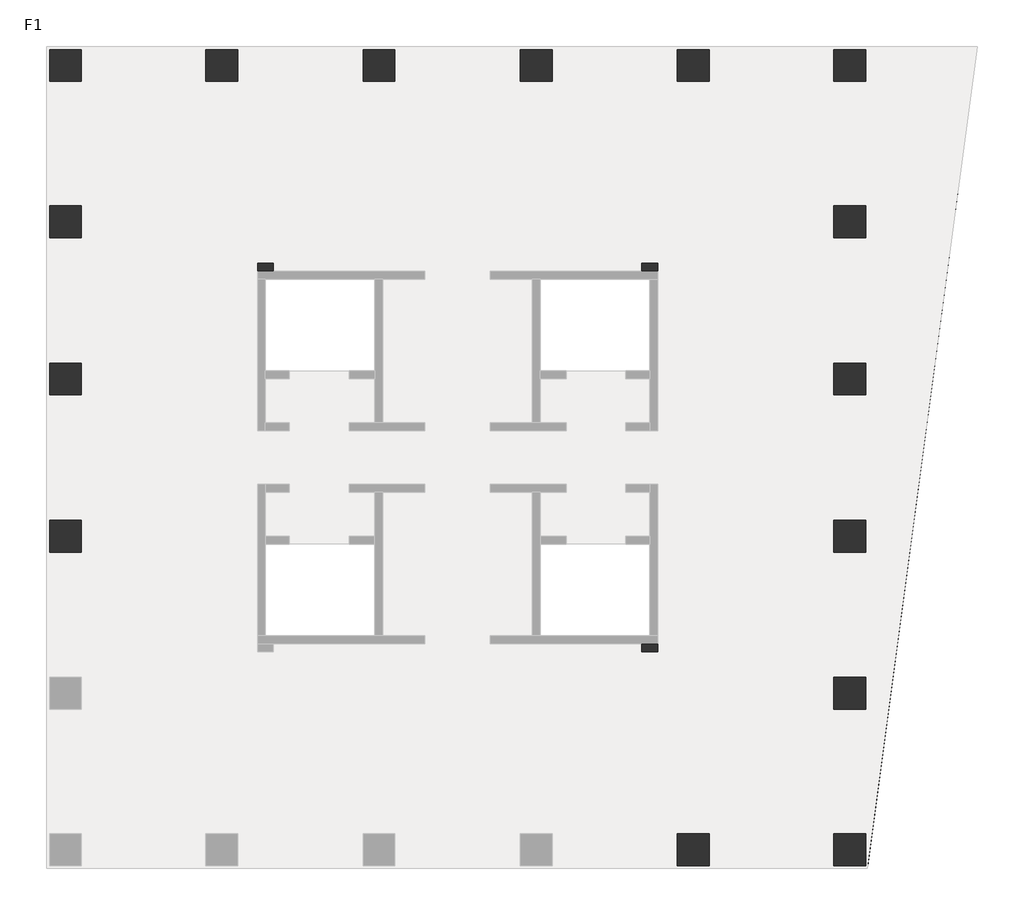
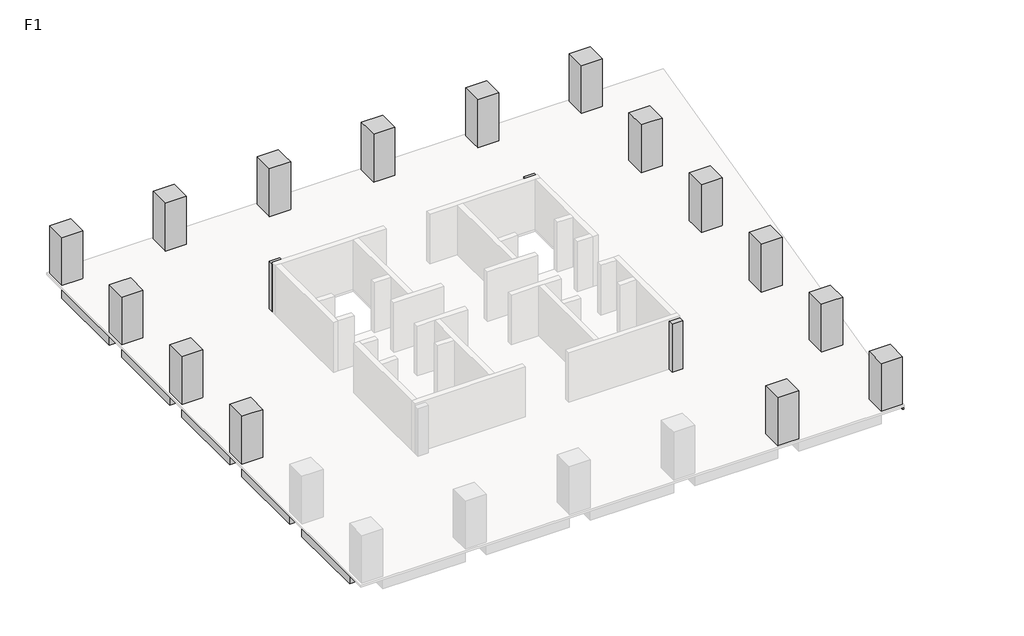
# One storey, part 2 of 2: 21 beams, 18 columns.
"""IFC4 building model written with IfcOpenShell, lengths in millimetres."""

from ifc_helpers import new_model, si_unit, frame, origin, place, context, project, spatial, polyline, outline, extrude, faceted_brep, element, save

model = new_model("IFC4")

# Units and contexts
model_context = context("Model", 3, world=origin())
ifc_project = project(units=[si_unit("LENGTHUNIT", "METRE", prefix="MILLI")], contexts=[model_context])

# Site, building, storey
site = spatial("IfcSite", under=ifc_project)
building = spatial("IfcBuilding", under=site)
storey = spatial("IfcBuildingStorey", under=building, Name="F1", Elevation=4000.0)

# Beams
placement = place(None, origin())
element("IfcBeam", 1, ObjectType="混凝土 - 矩形梁 : KL(5)-800x1000", at=placement, inside=storey, context=model_context, shape_type="SweptSolid", body=[
    extrude(outline(polyline([(25327.3257831, 27051.0498658), (25327.3257831, 26251.0498658), (19077.3257831, 26251.0498658), (19077.3257831, 27051.0498658), (25327.3257831, 27051.0498658)])), frame((0.0, 0.0, 3000.0), z_axis=(0.0, 0.0, 1.0), x_axis=(1.0, 0.0, 0.0)), (0.0, 0.0, 1.0), 840.0),
    extrude(outline(polyline([(-12472.6742169, 26251.0498658), (-12472.6742169, 27051.0498658), (-6222.6742169, 27051.0498658), (-6222.6742169, 26251.0498658), (-12472.6742169, 26251.0498658)])), frame((0.0, 0.0, 3000.0), z_axis=(0.0, 0.0, 1.0), x_axis=(1.0, 0.0, 0.0)), (0.0, 0.0, 1.0), 840.0),
    extrude(outline(polyline([(-4622.6742169, 26251.0498658), (-4622.6742169, 27051.0498658), (1677.3257831, 27051.0498658), (1677.3257831, 26251.0498658), (-4622.6742169, 26251.0498658)])), frame((0.0, 0.0, 3000.0), z_axis=(0.0, 0.0, 1.0), x_axis=(1.0, 0.0, 0.0)), (0.0, 0.0, 1.0), 840.0),
    extrude(outline(polyline([(3277.3257831, 26251.0498658), (3277.3257831, 27051.0498658), (9577.3257831, 27051.0498658), (9577.3257831, 26251.0498658), (3277.3257831, 26251.0498658)])), frame((0.0, 0.0, 3000.0), z_axis=(0.0, 0.0, 1.0), x_axis=(1.0, 0.0, 0.0)), (0.0, 0.0, 1.0), 840.0),
    extrude(outline(polyline([(11177.3257831, 26251.0498658), (11177.3257831, 27051.0498658), (17477.3257831, 27051.0498658), (17477.3257831, 26251.0498658), (11177.3257831, 26251.0498658)])), frame((0.0, 0.0, 3000.0), z_axis=(0.0, 0.0, 1.0), x_axis=(1.0, 0.0, 0.0)), (0.0, 0.0, 1.0), 840.0),
])
element("IfcBeam", 2, ObjectType="混凝土 - 矩形梁 : KL(5)-800x1000", at=placement, inside=storey, context=model_context, shape_type="Brep", body=[
    faceted_brep([(26927.3257831, 26251.0498658, 3000.0), (32422.0087099, 26251.0498658, 3000.0), (32422.0087099, 26251.0498658, 3840.0), (32018.4257091, 26251.0498658, 3840.0), (26927.3257831, 26251.0498658, 3840.0), (26927.3257831, 27051.0498658, 3000.0), (32422.0087099, 27051.0498658, 3000.0), (26927.3257831, 27051.0498658, 3840.0), (32422.0087099, 27051.0498658, 3840.0)], [[[0, 1, 2, 3, 4]], [[0, 5, 6, 1]], [[6, 5, 7, 8]], [[5, 0, 4, 7]], [[1, 6, 8, 2]], [[4, 3, 2, 8, 7]]]),
])
element("IfcBeam", 3, ObjectType="混凝土 - 矩形梁 : KL(5)-800x1000", at=placement, inside=storey, context=model_context, shape_type="Brep", body=[
    faceted_brep([(26127.3257831, -6098.9501342, 3000.0), (26127.3257831, -12348.9501342, 3000.0), (26127.3257831, -12348.9501342, 3840.0), (26127.3257831, -6098.9501342, 3840.0), (26927.3257831, -12348.9501342, 3000.0), (26927.3257831, -6098.9501342, 3000.0), (26927.3257831, -6098.9501342, 3840.0), (26927.3257831, -11700.7859463, 3840.0), (26927.3257831, -12348.9501342, 3840.0)], [[[0, 1, 2, 3]], [[4, 1, 0, 5]], [[4, 5, 6, 7, 8]], [[1, 4, 8, 2]], [[5, 0, 3, 6]], [[3, 2, 8, 7, 6]]]),
    faceted_brep([(26927.3257831, 25451.0498658, 3000.0), (26127.3257831, 25451.0498658, 3000.0), (26127.3257831, 25451.0498658, 3840.0), (26927.3257831, 25451.0498658, 3840.0), (26127.3257831, 19201.0498658, 3000.0), (26927.3257831, 19201.0498658, 3000.0), (26927.3257831, 19201.0498658, 3840.0), (26127.3257831, 19201.0498658, 3840.0)], [[[0, 1, 2, 3]], [[4, 5, 6, 7]], [[1, 4, 7, 2]], [[1, 0, 5, 4]], [[5, 0, 3, 6]], [[3, 2, 7, 6]]]),
    faceted_brep([(26927.3257831, 17601.0498658, 3000.0), (26127.3257831, 17601.0498658, 3000.0), (26127.3257831, 17601.0498658, 3840.0), (26927.3257831, 17601.0498658, 3840.0), (26127.3257831, 11301.0498658, 3000.0), (26927.3257831, 11301.0498658, 3000.0), (26927.3257831, 11301.0498658, 3840.0), (26127.3257831, 11301.0498658, 3840.0)], [[[0, 1, 2, 3]], [[4, 5, 6, 7]], [[1, 4, 7, 2]], [[1, 0, 5, 4]], [[5, 0, 3, 6]], [[3, 2, 7, 6]]]),
    faceted_brep([(26927.3257831, 9701.0498658, 3000.0), (26127.3257831, 9701.0498658, 3000.0), (26127.3257831, 9701.0498658, 3840.0), (26927.3257831, 9701.0498658, 3840.0), (26127.3257831, 3401.0498658, 3000.0), (26927.3257831, 3401.0498658, 3000.0), (26927.3257831, 3401.0498658, 3840.0), (26127.3257831, 3401.0498658, 3840.0)], [[[0, 1, 2, 3]], [[4, 5, 6, 7]], [[1, 4, 7, 2]], [[1, 0, 5, 4]], [[5, 0, 3, 6]], [[3, 2, 7, 6]]]),
    faceted_brep([(26927.3257831, 1801.0498658, 3000.0), (26127.3257831, 1801.0498658, 3000.0), (26127.3257831, 1801.0498658, 3840.0), (26927.3257831, 1801.0498658, 3840.0), (26127.3257831, -4498.9501342, 3000.0), (26927.3257831, -4498.9501342, 3000.0), (26927.3257831, -4498.9501342, 3840.0), (26127.3257831, -4498.9501342, 3840.0)], [[[0, 1, 2, 3]], [[4, 5, 6, 7]], [[1, 4, 7, 2]], [[1, 0, 5, 4]], [[5, 0, 3, 6]], [[3, 2, 7, 6]]]),
])
element("IfcBeam", 4, ObjectType="混凝土 - 矩形梁 : KL(5)-800x1000", at=placement, inside=storey, context=model_context, shape_type="SweptSolid", body=[
    extrude(outline(polyline([(-14072.6742169, 25451.0498658), (-13272.6742169, 25451.0498658), (-13272.6742169, 19201.0498658), (-14072.6742169, 19201.0498658), (-14072.6742169, 25451.0498658)])), frame((0.0, 0.0, 3000.0), z_axis=(0.0, 0.0, 1.0), x_axis=(1.0, 0.0, 0.0)), (0.0, 0.0, 1.0), 840.0),
    extrude(outline(polyline([(-13272.6742169, -12348.9501342), (-14072.6742169, -12348.9501342), (-14072.6742169, -6098.9501342), (-13272.6742169, -6098.9501342), (-13272.6742169, -12348.9501342)])), frame((0.0, 0.0, 3000.0), z_axis=(0.0, 0.0, 1.0), x_axis=(1.0, 0.0, 0.0)), (0.0, 0.0, 1.0), 840.0),
    extrude(outline(polyline([(-14072.6742169, 17601.0498658), (-13272.6742169, 17601.0498658), (-13272.6742169, 11301.0498658), (-14072.6742169, 11301.0498658), (-14072.6742169, 17601.0498658)])), frame((0.0, 0.0, 3000.0), z_axis=(0.0, 0.0, 1.0), x_axis=(1.0, 0.0, 0.0)), (0.0, 0.0, 1.0), 840.0),
    extrude(outline(polyline([(-14072.6742169, 9701.0498658), (-13272.6742169, 9701.0498658), (-13272.6742169, 3401.0498658), (-14072.6742169, 3401.0498658), (-14072.6742169, 9701.0498658)])), frame((0.0, 0.0, 3000.0), z_axis=(0.0, 0.0, 1.0), x_axis=(1.0, 0.0, 0.0)), (0.0, 0.0, 1.0), 840.0),
    extrude(outline(polyline([(-14072.6742169, 1801.0498658), (-13272.6742169, 1801.0498658), (-13272.6742169, -4498.9501342), (-14072.6742169, -4498.9501342), (-14072.6742169, 1801.0498658)])), frame((0.0, 0.0, 3000.0), z_axis=(0.0, 0.0, 1.0), x_axis=(1.0, 0.0, 0.0)), (0.0, 0.0, 1.0), 840.0),
])
element("IfcBeam", 5, ObjectType="混凝土 - 矩形梁 : L1-800x500", at=placement, inside=storey, context=model_context, shape_type="SweptSolid", body=[
    extrude(outline(polyline([(-12472.6742169, 2201.0498658), (-12472.6742169, 3001.0498658), (-3622.6742169, 3001.0498658), (-3622.6742169, 2201.0498658), (-12472.6742169, 2201.0498658)])), frame((0.0, 0.0, 3500.0), z_axis=(0.0, 0.0, 1.0), x_axis=(1.0, 0.0, 0.0)), (0.0, 0.0, 1.0), 340.0),
])
element("IfcBeam", 6, ObjectType="混凝土 - 矩形梁 : L1-800x500", at=placement, inside=storey, context=model_context, shape_type="SweptSolid", body=[
    extrude(outline(polyline([(-12472.6742169, 10101.0498658), (-12472.6742169, 10901.0498658), (-3622.6742169, 10901.0498658), (-3622.6742169, 10101.0498658), (-12472.6742169, 10101.0498658)])), frame((0.0, 0.0, 3500.0), z_axis=(0.0, 0.0, 1.0), x_axis=(1.0, 0.0, 0.0)), (0.0, 0.0, 1.0), 340.0),
])
element("IfcBeam", 7, ObjectType="混凝土 - 矩形梁 : L1-800x500", at=placement, inside=storey, context=model_context, shape_type="Brep", body=[
    faceted_brep([(-12472.6742169, 17789.85471, 3500.0), (-3622.6742169, 15588.3621727, 3500.0), (-3622.6742169, 15588.3621727, 3840.0), (-12472.6742169, 17789.85471, 3840.0), (-3173.6696907, 16301.0498658, 3500.0), (-3622.6742169, 16301.0498658, 3500.0), (-3622.6742169, 15901.0498658, 3500.0), (-12472.6742169, 18614.2350714, 3500.0), (-3746.9473979, 16443.6562607, 3500.0), (-12472.6742169, 18614.2350714, 3840.0), (-3746.9473979, 16443.6562607, 3840.0), (-3173.6696907, 16301.0498658, 3840.0), (-3622.6742169, 16301.0498658, 3840.0)], [[[0, 1, 2, 3]], [[4, 5, 6, 1, 0, 7, 8]], [[4, 8, 7, 9, 10, 11]], [[6, 5, 12, 2, 1]], [[5, 4, 11, 12]], [[7, 0, 3, 9]], [[3, 2, 12, 11, 10, 9]]]),
])
element("IfcBeam", 8, ObjectType="混凝土 - 矩形梁 : L1-800x500", at=placement, inside=storey, context=model_context, shape_type="SweptSolid", body=[
    extrude(outline(polyline([(-3173.6696907, 16301.0498658), (-3746.9473979, 16443.6562607), (-5661.5624638, 25451.0498658), (-4843.6893517, 25451.0498658), (-2898.7618154, 16301.0498658), (-3173.6696907, 16301.0498658)])), frame((0.0, 0.0, 3500.0), z_axis=(0.0, 0.0, 1.0), x_axis=(1.0, 0.0, 0.0)), (0.0, 0.0, 1.0), 340.0),
])
element("IfcBeam", 9, ObjectType="混凝土 - 矩形梁 : L1-800x500", at=placement, inside=storey, context=model_context, shape_type="SweptSolid", body=[
    extrude(outline(polyline([(2077.3257831, 25451.0498658), (2877.3257831, 25451.0498658), (2877.3257831, 15901.0498658), (2077.3257831, 15901.0498658), (2077.3257831, 25451.0498658)])), frame((0.0, 0.0, 3500.0), z_axis=(0.0, 0.0, 1.0), x_axis=(1.0, 0.0, 0.0)), (0.0, 0.0, 1.0), 340.0),
])
element("IfcBeam", 10, ObjectType="混凝土 - 矩形梁 : L1-800x500", at=placement, inside=storey, context=model_context, shape_type="SweptSolid", body=[
    extrude(outline(polyline([(9977.3257831, 25451.0498658), (10777.3257831, 25451.0498658), (10777.3257831, 15901.0498658), (9977.3257831, 15901.0498658), (9977.3257831, 25451.0498658)])), frame((0.0, 0.0, 3500.0), z_axis=(0.0, 0.0, 1.0), x_axis=(1.0, 0.0, 0.0)), (0.0, 0.0, 1.0), 340.0),
])
element("IfcBeam", 11, ObjectType="混凝土 - 矩形梁 : L1-800x500", at=placement, inside=storey, context=model_context, shape_type="Brep", body=[
    faceted_brep([(25327.3257831, -4687.7549784, 3500.0), (16477.3257831, -2486.2624411, 3500.0), (16477.3257831, -2486.2624411, 3840.0), (25327.3257831, -4687.7549784, 3840.0), (16028.3212569, -3198.9501342, 3500.0), (16477.3257831, -3198.9501342, 3500.0), (16477.3257831, -2798.9501342, 3500.0), (25327.3257831, -5512.1353397, 3500.0), (16601.5989641, -3341.556529, 3500.0), (25327.3257831, -5512.1353397, 3840.0), (16601.5989641, -3341.556529, 3840.0), (16028.3212569, -3198.9501342, 3840.0), (16477.3257831, -3198.9501342, 3840.0)], [[[0, 1, 2, 3]], [[4, 5, 6, 1, 0, 7, 8]], [[4, 8, 7, 9, 10, 11]], [[6, 5, 12, 2, 1]], [[5, 4, 11, 12]], [[7, 0, 3, 9]], [[3, 2, 12, 11, 10, 9]]]),
])
element("IfcBeam", 12, ObjectType="混凝土 - 矩形梁 : L1-800x500", at=placement, inside=storey, context=model_context, shape_type="SweptSolid", body=[
    extrude(outline(polyline([(16028.3212569, -3198.9501342), (16601.5989641, -3341.556529), (18516.21403, -12348.9501342), (17698.3409179, -12348.9501342), (15753.4133817, -3198.9501342), (16028.3212569, -3198.9501342)])), frame((0.0, 0.0, 3500.0), z_axis=(0.0, 0.0, 1.0), x_axis=(1.0, 0.0, 0.0)), (0.0, 0.0, 1.0), 340.0),
])
element("IfcBeam", 13, ObjectType="混凝土 - 矩形梁 : L1-800x500", at=placement, inside=storey, context=model_context, shape_type="SweptSolid", body=[
    extrude(outline(polyline([(25327.3257831, 3001.0498658), (25327.3257831, 2201.0498658), (16477.3257831, 2201.0498658), (16477.3257831, 3001.0498658), (25327.3257831, 3001.0498658)])), frame((0.0, 0.0, 3500.0), z_axis=(0.0, 0.0, 1.0), x_axis=(1.0, 0.0, 0.0)), (0.0, 0.0, 1.0), 340.0),
])
element("IfcBeam", 14, ObjectType="混凝土 - 矩形梁 : L1-800x500", at=placement, inside=storey, context=model_context, shape_type="SweptSolid", body=[
    extrude(outline(polyline([(25327.3257831, 10901.0498658), (25327.3257831, 10101.0498658), (16477.3257831, 10101.0498658), (16477.3257831, 10901.0498658), (25327.3257831, 10901.0498658)])), frame((0.0, 0.0, 3500.0), z_axis=(0.0, 0.0, 1.0), x_axis=(1.0, 0.0, 0.0)), (0.0, 0.0, 1.0), 340.0),
])
element("IfcBeam", 15, ObjectType="混凝土 - 矩形梁 : L1-800x500", at=placement, inside=storey, context=model_context, shape_type="Brep", body=[
    faceted_brep([(25327.3257831, 18610.6867312, 3500.0), (16590.8993897, 16393.3196262, 3500.0), (16227.3565337, 16301.0498658, 3500.0), (16227.3565337, 16301.0498658, 3840.0), (16590.8993897, 16393.3196262, 3840.0), (25327.3257831, 18610.6867312, 3840.0), (16477.3257831, 16301.0498658, 3500.0), (25327.3257831, 17785.3216299, 3500.0), (16477.3257831, 15539.1287365, 3500.0), (16477.3257831, 15901.0498658, 3500.0), (25327.3257831, 17785.3216299, 3840.0), (16477.3257831, 15539.1287365, 3840.0), (16477.3257831, 16301.0498658, 3840.0)], [[[0, 1, 2, 3, 4, 5]], [[6, 2, 1, 0, 7, 8, 9]], [[8, 7, 10, 11]], [[9, 8, 11, 12, 6]], [[2, 6, 12, 3]], [[7, 0, 5, 10]], [[5, 4, 3, 12, 11, 10]]]),
])
element("IfcBeam", 16, ObjectType="混凝土 - 矩形梁 : L1-800x500", at=placement, inside=storey, context=model_context, shape_type="SweptSolid", body=[
    extrude(outline(polyline([(16590.8993897, 16393.3196262), (16227.3565337, 16301.0498658), (15753.4133817, 16301.0498658), (17698.3409179, 25451.0498658), (18516.21403, 25451.0498658), (16590.8993897, 16393.3196262)])), frame((0.0, 0.0, 3500.0), z_axis=(0.0, 0.0, 1.0), x_axis=(1.0, 0.0, 0.0)), (0.0, 0.0, 1.0), 340.0),
])
element("IfcBeam", 17, ObjectType="混凝土 - 矩形梁 : L2-400x400", at=placement, inside=storey, context=model_context, shape_type="Brep", body=[
    faceted_brep([(32018.4257091, 26251.0498658, 3600.0), (30992.2061969, 18601.0498658, 3600.0), (30938.5476603, 18201.0498658, 3600.0), (29932.4500994, 10701.0498658, 3600.0), (29878.7915628, 10301.0498658, 3600.0), (28872.6940018, 2801.0498658, 3600.0), (28819.0354652, 2401.0498658, 3600.0), (27812.9379042, -5098.9501342, 3600.0), (27759.2793677, -5498.9501342, 3600.0), (26927.3257831, -11700.7859463, 3600.0), (26927.3257831, -11700.7859463, 3840.0), (27759.2793677, -5498.9501342, 3840.0), (27812.9379042, -5098.9501342, 3840.0), (28819.0354652, 2401.0498658, 3840.0), (28872.6940018, 2801.0498658, 3840.0), (29878.7915628, 10301.0498658, 3840.0), (29932.4500994, 10701.0498658, 3840.0), (30938.5476603, 18201.0498658, 3840.0), (30992.2061969, 18601.0498658, 3840.0), (32018.4257091, 26251.0498658, 3840.0), (27029.3257831, -13948.9501342, 3600.0), (26927.3257831, -13935.2672073, 3600.0), (32422.0087099, 26251.0498658, 3600.0), (32422.0087099, 26251.0498658, 3840.0), (27029.3257831, -13948.9501342, 3840.0), (26927.3257831, -13935.2672073, 3840.0), (26927.3257831, -12348.9501342, 3840.0)], [[[0, 1, 2, 3, 4, 5, 6, 7, 8, 9, 10, 11, 12, 13, 14, 15, 16, 17, 18, 19]], [[20, 21, 9, 8, 7, 6, 5, 4, 3, 2, 1, 0, 22]], [[20, 22, 23, 24]], [[9, 21, 25, 26, 10]], [[21, 20, 24, 25]], [[22, 0, 19, 23]], [[19, 18, 17, 16, 15, 14, 13, 12, 11, 10, 26, 25, 24, 23]]]),
])
element("IfcBeam", 18, ObjectType="混凝土 - 矩形梁 : L2-400x400", at=placement, inside=storey, context=model_context, shape_type="SweptSolid", body=[
    extrude(outline(polyline([(26927.3257831, 18201.0498658), (26927.3257831, 18601.0498658), (30992.2061969, 18601.0498658), (30938.5476603, 18201.0498658), (26927.3257831, 18201.0498658)])), frame((0.0, 0.0, 3600.0), z_axis=(0.0, 0.0, 1.0), x_axis=(1.0, 0.0, 0.0)), (0.0, 0.0, 1.0), 240.0),
])
element("IfcBeam", 19, ObjectType="混凝土 - 矩形梁 : L2-400x400", at=placement, inside=storey, context=model_context, shape_type="SweptSolid", body=[
    extrude(outline(polyline([(26927.3257831, 10301.0498658), (26927.3257831, 10701.0498658), (29932.4500994, 10701.0498658), (29878.7915628, 10301.0498658), (26927.3257831, 10301.0498658)])), frame((0.0, 0.0, 3600.0), z_axis=(0.0, 0.0, 1.0), x_axis=(1.0, 0.0, 0.0)), (0.0, 0.0, 1.0), 240.0),
])
element("IfcBeam", 20, ObjectType="混凝土 - 矩形梁 : L2-400x400", at=placement, inside=storey, context=model_context, shape_type="SweptSolid", body=[
    extrude(outline(polyline([(26927.3257831, 2401.0498658), (26927.3257831, 2801.0498658), (28872.6940018, 2801.0498658), (28819.0354652, 2401.0498658), (26927.3257831, 2401.0498658)])), frame((0.0, 0.0, 3600.0), z_axis=(0.0, 0.0, 1.0), x_axis=(1.0, 0.0, 0.0)), (0.0, 0.0, 1.0), 240.0),
])
element("IfcBeam", 21, ObjectType="混凝土 - 矩形梁 : L2-400x400", at=placement, inside=storey, context=model_context, shape_type="SweptSolid", body=[
    extrude(outline(polyline([(26927.3257831, -5498.9501342), (26927.3257831, -5098.9501342), (27812.9379042, -5098.9501342), (27759.2793677, -5498.9501342), (26927.3257831, -5498.9501342)])), frame((0.0, 0.0, 3600.0), z_axis=(0.0, 0.0, 1.0), x_axis=(1.0, 0.0, 0.0)), (0.0, 0.0, 1.0), 240.0),
])

# Columns
element("IfcColumn", 22, ObjectType="混凝土 - 矩形 - 柱 : Z1-1600x1600", at=placement, inside=storey, context=model_context, shape_type="SweptSolid", body=[
    extrude(outline(polyline([(-12472.6742169, 27051.0498658), (-12472.6742169, 25451.0498658), (-14072.6742169, 25451.0498658), (-14072.6742169, 27051.0498658), (-12472.6742169, 27051.0498658)])), frame((0.0, 0.0, 4000.0), z_axis=(0.0, 0.0, 1.0), x_axis=(1.0, 0.0, 0.0)), (0.0, 0.0, 1.0), 3840.0),
])
element("IfcColumn", 23, ObjectType="混凝土 - 矩形 - 柱 : Z1-1600x1600", at=placement, inside=storey, context=model_context, shape_type="Brep", body=[
    faceted_brep([(-4622.6742169, 27051.0498658, 4000.0), (-4622.6742169, 25451.0498658, 4000.0), (-6222.6742169, 25451.0498658, 4000.0), (-6222.6742169, 27051.0498658, 4000.0), (-4622.6742169, 27051.0498658, 7000.0), (-4622.6742169, 27051.0498658, 7840.0), (-4622.6742169, 26251.0498658, 7840.0), (-4622.6742169, 25451.0498658, 7840.0), (-6222.6742169, 25451.0498658, 7840.0), (-6222.6742169, 26251.0498658, 7840.0), (-6222.6742169, 27051.0498658, 7840.0), (-6222.6742169, 27051.0498658, 7000.0)], [[[0, 1, 2, 3]], [[1, 0, 4, 5, 6, 7]], [[2, 1, 7, 8]], [[3, 2, 8, 9, 10, 11]], [[0, 3, 11, 10, 5, 4]], [[7, 6, 5, 10, 9, 8]]]),
])
element("IfcColumn", 24, ObjectType="混凝土 - 矩形 - 柱 : Z1-1600x1600", at=placement, inside=storey, context=model_context, shape_type="Brep", body=[
    faceted_brep([(-12472.6742169, 19201.0498658, 4000.0), (-12472.6742169, 17601.0498658, 4000.0), (-14072.6742169, 17601.0498658, 4000.0), (-14072.6742169, 19201.0498658, 4000.0), (-12472.6742169, 19201.0498658, 7840.0), (-12472.6742169, 17601.0498658, 7840.0), (-13272.6742169, 17601.0498658, 7840.0), (-14072.6742169, 17601.0498658, 7840.0), (-14072.6742169, 17601.0498658, 7000.0), (-14072.6742169, 19201.0498658, 7840.0), (-14072.6742169, 19201.0498658, 7000.0), (-13272.6742169, 19201.0498658, 7840.0)], [[[0, 1, 2, 3]], [[1, 0, 4, 5]], [[2, 1, 5, 6, 7, 8]], [[3, 2, 8, 7, 9, 10]], [[0, 3, 10, 9, 11, 4]], [[5, 4, 11, 9, 7, 6]]]),
])
element("IfcColumn", 25, ObjectType="混凝土 - 矩形 - 柱 : Z1-1600x1600", at=placement, inside=storey, context=model_context, shape_type="Brep", body=[
    faceted_brep([(-12472.6742169, 11301.0498658, 4000.0), (-12472.6742169, 9701.0498658, 4000.0), (-14072.6742169, 9701.0498658, 4000.0), (-14072.6742169, 11301.0498658, 4000.0), (-12472.6742169, 11301.0498658, 7840.0), (-12472.6742169, 9701.0498658, 7840.0), (-13272.6742169, 9701.0498658, 7840.0), (-14072.6742169, 9701.0498658, 7840.0), (-14072.6742169, 9701.0498658, 7000.0), (-14072.6742169, 11301.0498658, 7840.0), (-14072.6742169, 11301.0498658, 7000.0), (-13272.6742169, 11301.0498658, 7840.0)], [[[0, 1, 2, 3]], [[1, 0, 4, 5]], [[2, 1, 5, 6, 7, 8]], [[3, 2, 8, 7, 9, 10]], [[0, 3, 10, 9, 11, 4]], [[5, 4, 11, 9, 7, 6]]]),
])
element("IfcColumn", 26, ObjectType="混凝土 - 矩形 - 柱 : Z1-1600x1600", at=placement, inside=storey, context=model_context, shape_type="Brep", body=[
    faceted_brep([(-12472.6742169, 3401.0498658, 4000.0), (-12472.6742169, 1801.0498658, 4000.0), (-14072.6742169, 1801.0498658, 4000.0), (-14072.6742169, 3401.0498658, 4000.0), (-12472.6742169, 3401.0498658, 7840.0), (-12472.6742169, 1801.0498658, 7840.0), (-13272.6742169, 1801.0498658, 7840.0), (-14072.6742169, 1801.0498658, 7840.0), (-14072.6742169, 1801.0498658, 7000.0), (-14072.6742169, 3401.0498658, 7840.0), (-14072.6742169, 3401.0498658, 7000.0), (-13272.6742169, 3401.0498658, 7840.0)], [[[0, 1, 2, 3]], [[1, 0, 4, 5]], [[2, 1, 5, 6, 7, 8]], [[3, 2, 8, 7, 9, 10]], [[0, 3, 10, 9, 11, 4]], [[5, 4, 11, 9, 7, 6]]]),
])
element("IfcColumn", 27, ObjectType="混凝土 - 矩形 - 柱 : Z1-1600x1600", at=placement, inside=storey, context=model_context, shape_type="SweptSolid", body=[
    extrude(outline(polyline([(25327.3257831, 27051.0498658), (26927.3257831, 27051.0498658), (26927.3257831, 25451.0498658), (25327.3257831, 25451.0498658), (25327.3257831, 27051.0498658)])), frame((0.0, 0.0, 4000.0), z_axis=(0.0, 0.0, 1.0), x_axis=(1.0, 0.0, 0.0)), (0.0, 0.0, 1.0), 3840.0),
])
element("IfcColumn", 28, ObjectType="混凝土 - 矩形 - 柱 : Z1-1600x1600", at=placement, inside=storey, context=model_context, shape_type="Brep", body=[
    faceted_brep([(25327.3257831, 19201.0498658, 4000.0), (26927.3257831, 19201.0498658, 4000.0), (26927.3257831, 17601.0498658, 4000.0), (25327.3257831, 17601.0498658, 4000.0), (25327.3257831, 17601.0498658, 7840.0), (25327.3257831, 19201.0498658, 7840.0), (26927.3257831, 17601.0498658, 7000.0), (26927.3257831, 17601.0498658, 7840.0), (26127.3257831, 17601.0498658, 7840.0), (26927.3257831, 19201.0498658, 7000.0), (26927.3257831, 19201.0498658, 7840.0), (26127.3257831, 19201.0498658, 7840.0)], [[[0, 1, 2, 3]], [[0, 3, 4, 5]], [[3, 2, 6, 7, 8, 4]], [[2, 1, 9, 10, 7, 6]], [[1, 0, 5, 11, 10, 9]], [[5, 4, 8, 7, 10, 11]]]),
])
element("IfcColumn", 29, ObjectType="混凝土 - 矩形 - 柱 : Z1-1600x1600", at=placement, inside=storey, context=model_context, shape_type="Brep", body=[
    faceted_brep([(25327.3257831, 11301.0498658, 4000.0), (26927.3257831, 11301.0498658, 4000.0), (26927.3257831, 9701.0498658, 4000.0), (25327.3257831, 9701.0498658, 4000.0), (25327.3257831, 9701.0498658, 7840.0), (25327.3257831, 11301.0498658, 7840.0), (26927.3257831, 9701.0498658, 7000.0), (26927.3257831, 9701.0498658, 7840.0), (26127.3257831, 9701.0498658, 7840.0), (26927.3257831, 11301.0498658, 7000.0), (26927.3257831, 11301.0498658, 7840.0), (26127.3257831, 11301.0498658, 7840.0)], [[[0, 1, 2, 3]], [[0, 3, 4, 5]], [[3, 2, 6, 7, 8, 4]], [[2, 1, 9, 10, 7, 6]], [[1, 0, 5, 11, 10, 9]], [[5, 4, 8, 7, 10, 11]]]),
])
element("IfcColumn", 30, ObjectType="混凝土 - 矩形 - 柱 : Z1-1600x1600", at=placement, inside=storey, context=model_context, shape_type="Brep", body=[
    faceted_brep([(25327.3257831, 3401.0498658, 4000.0), (26927.3257831, 3401.0498658, 4000.0), (26927.3257831, 1801.0498658, 4000.0), (25327.3257831, 1801.0498658, 4000.0), (25327.3257831, 1801.0498658, 7840.0), (25327.3257831, 3401.0498658, 7840.0), (26927.3257831, 1801.0498658, 7000.0), (26927.3257831, 1801.0498658, 7840.0), (26127.3257831, 1801.0498658, 7840.0), (26927.3257831, 3401.0498658, 7000.0), (26927.3257831, 3401.0498658, 7840.0), (26127.3257831, 3401.0498658, 7840.0)], [[[0, 1, 2, 3]], [[0, 3, 4, 5]], [[3, 2, 6, 7, 8, 4]], [[2, 1, 9, 10, 7, 6]], [[1, 0, 5, 11, 10, 9]], [[5, 4, 8, 7, 10, 11]]]),
])
element("IfcColumn", 31, ObjectType="混凝土 - 矩形 - 柱 : Z1-1600x1600", at=placement, inside=storey, context=model_context, shape_type="Brep", body=[
    faceted_brep([(25327.3257831, -4498.9501342, 4000.0), (26927.3257831, -4498.9501342, 4000.0), (26927.3257831, -6098.9501342, 4000.0), (25327.3257831, -6098.9501342, 4000.0), (25327.3257831, -6098.9501342, 7840.0), (25327.3257831, -4498.9501342, 7840.0), (26927.3257831, -6098.9501342, 7000.0), (26927.3257831, -6098.9501342, 7840.0), (26127.3257831, -6098.9501342, 7840.0), (26927.3257831, -4498.9501342, 7000.0), (26927.3257831, -4498.9501342, 7840.0), (26127.3257831, -4498.9501342, 7840.0)], [[[0, 1, 2, 3]], [[0, 3, 4, 5]], [[3, 2, 6, 7, 8, 4]], [[2, 1, 9, 10, 7, 6]], [[1, 0, 5, 11, 10, 9]], [[5, 4, 8, 7, 10, 11]]]),
])
element("IfcColumn", 32, ObjectType="混凝土 - 矩形 - 柱 : Z1-1600x1600", at=placement, inside=storey, context=model_context, shape_type="SweptSolid", body=[
    extrude(outline(polyline([(25327.3257831, -12348.9501342), (26927.3257831, -12348.9501342), (26927.3257831, -13948.9501342), (25327.3257831, -13948.9501342), (25327.3257831, -12348.9501342)])), frame((0.0, 0.0, 4000.0), z_axis=(0.0, 0.0, 1.0), x_axis=(1.0, 0.0, 0.0)), (0.0, 0.0, 1.0), 3840.0),
])
element("IfcColumn", 33, ObjectType="混凝土 - 矩形 - 柱 : Z1-1600x1600", at=placement, inside=storey, context=model_context, shape_type="Brep", body=[
    faceted_brep([(3277.3257831, 27051.0498658, 4000.0), (3277.3257831, 25451.0498658, 4000.0), (1677.3257831, 25451.0498658, 4000.0), (1677.3257831, 27051.0498658, 4000.0), (3277.3257831, 27051.0498658, 7000.0), (3277.3257831, 27051.0498658, 7840.0), (3277.3257831, 26251.0498658, 7840.0), (3277.3257831, 25451.0498658, 7840.0), (1677.3257831, 25451.0498658, 7840.0), (1677.3257831, 26251.0498658, 7840.0), (1677.3257831, 27051.0498658, 7840.0), (1677.3257831, 27051.0498658, 7000.0)], [[[0, 1, 2, 3]], [[1, 0, 4, 5, 6, 7]], [[2, 1, 7, 8]], [[3, 2, 8, 9, 10, 11]], [[0, 3, 11, 10, 5, 4]], [[7, 6, 5, 10, 9, 8]]]),
])
element("IfcColumn", 34, ObjectType="混凝土 - 矩形 - 柱 : Z1-1600x1600", at=placement, inside=storey, context=model_context, shape_type="Brep", body=[
    faceted_brep([(11177.3257831, 27051.0498658, 4000.0), (11177.3257831, 25451.0498658, 4000.0), (9577.3257831, 25451.0498658, 4000.0), (9577.3257831, 27051.0498658, 4000.0), (11177.3257831, 27051.0498658, 7000.0), (11177.3257831, 27051.0498658, 7840.0), (11177.3257831, 26251.0498658, 7840.0), (11177.3257831, 25451.0498658, 7840.0), (9577.3257831, 25451.0498658, 7840.0), (9577.3257831, 26251.0498658, 7840.0), (9577.3257831, 27051.0498658, 7840.0), (9577.3257831, 27051.0498658, 7000.0)], [[[0, 1, 2, 3]], [[1, 0, 4, 5, 6, 7]], [[2, 1, 7, 8]], [[3, 2, 8, 9, 10, 11]], [[0, 3, 11, 10, 5, 4]], [[7, 6, 5, 10, 9, 8]]]),
])
element("IfcColumn", 35, ObjectType="混凝土 - 矩形 - 柱 : Z1-1600x1600", at=placement, inside=storey, context=model_context, shape_type="Brep", body=[
    faceted_brep([(19077.3257831, 27051.0498658, 4000.0), (19077.3257831, 25451.0498658, 4000.0), (17477.3257831, 25451.0498658, 4000.0), (17477.3257831, 27051.0498658, 4000.0), (19077.3257831, 27051.0498658, 7000.0), (19077.3257831, 27051.0498658, 7840.0), (19077.3257831, 26251.0498658, 7840.0), (19077.3257831, 25451.0498658, 7840.0), (17477.3257831, 25451.0498658, 7840.0), (17477.3257831, 26251.0498658, 7840.0), (17477.3257831, 27051.0498658, 7840.0), (17477.3257831, 27051.0498658, 7000.0)], [[[0, 1, 2, 3]], [[1, 0, 4, 5, 6, 7]], [[2, 1, 7, 8]], [[3, 2, 8, 9, 10, 11]], [[0, 3, 11, 10, 5, 4]], [[7, 6, 5, 10, 9, 8]]]),
])
element("IfcColumn", 36, ObjectType="混凝土 - 矩形 - 柱 : Z1-1600x1600", at=placement, inside=storey, context=model_context, shape_type="Brep", body=[
    faceted_brep([(19077.3257831, -12348.9501342, 4000.0), (19077.3257831, -13948.9501342, 4000.0), (17477.3257831, -13948.9501342, 4000.0), (17477.3257831, -12348.9501342, 4000.0), (19077.3257831, -12348.9501342, 7840.0), (19077.3257831, -13148.9501342, 7840.0), (19077.3257831, -13948.9501342, 7840.0), (19077.3257831, -13948.9501342, 7000.0), (17477.3257831, -13948.9501342, 7840.0), (17477.3257831, -13948.9501342, 7000.0), (17477.3257831, -13148.9501342, 7840.0), (17477.3257831, -12348.9501342, 7840.0)], [[[0, 1, 2, 3]], [[1, 0, 4, 5, 6, 7]], [[2, 1, 7, 6, 8, 9]], [[3, 2, 9, 8, 10, 11]], [[0, 3, 11, 4]], [[6, 5, 4, 11, 10, 8]]]),
])
element("IfcColumn", 37, ObjectType="混凝土 - 矩形 - 柱 : Z2-800x800", at=placement, inside=storey, context=model_context, shape_type="SweptSolid", body=[
    extrude(outline(polyline([(-3622.6742169, 16301.0498658), (-2822.6742169, 16301.0498658), (-2822.6742169, 15901.0498658), (-3622.6742169, 15901.0498658), (-3622.6742169, 16301.0498658)])), frame((0.0, 0.0, 4000.0), z_axis=(0.0, 0.0, 1.0), x_axis=(1.0, 0.0, 0.0)), (0.0, 0.0, 1.0), 3840.0),
])
element("IfcColumn", 38, ObjectType="混凝土 - 矩形 - 柱 : Z2-800x800", at=placement, inside=storey, context=model_context, shape_type="SweptSolid", body=[
    extrude(outline(polyline([(16477.3257831, -3198.9501342), (15677.3257831, -3198.9501342), (15677.3257831, -2798.9501342), (16477.3257831, -2798.9501342), (16477.3257831, -3198.9501342)])), frame((0.0, 0.0, 4000.0), z_axis=(0.0, 0.0, 1.0), x_axis=(1.0, 0.0, 0.0)), (0.0, 0.0, 1.0), 3840.0),
])
element("IfcColumn", 39, ObjectType="混凝土 - 矩形 - 柱 : Z2-800x800", at=placement, inside=storey, context=model_context, shape_type="SweptSolid", body=[
    extrude(outline(polyline([(15677.3257831, 16301.0498658), (16477.3257831, 16301.0498658), (16477.3257831, 15901.0498658), (15677.3257831, 15901.0498658), (15677.3257831, 16301.0498658)])), frame((0.0, 0.0, 4000.0), z_axis=(0.0, 0.0, 1.0), x_axis=(1.0, 0.0, 0.0)), (0.0, 0.0, 1.0), 3840.0),
])

save(model, "model.ifc")
